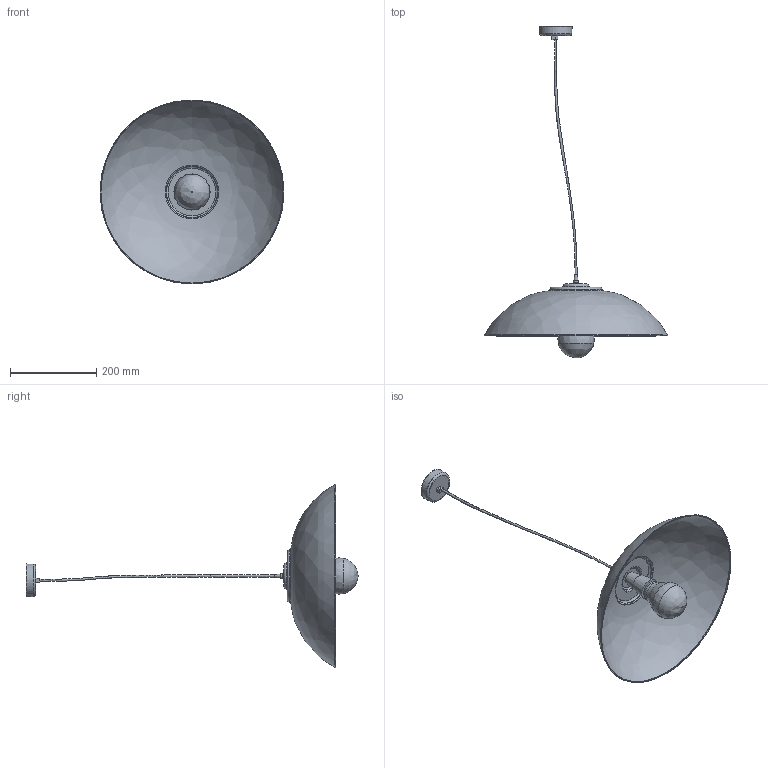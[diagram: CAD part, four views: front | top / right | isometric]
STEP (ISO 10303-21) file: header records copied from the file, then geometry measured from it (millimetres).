
FILE_DESCRIPTION(/* description */ (''),/* implementation_level */ '2;1');
FILE_NAME(/* name */ 'C:\Users\Patryk\Desktop\Modele MOSIĄDZ\B03\LAMPA B03.stp',/* time_stamp */ '2019-12-15T01:40:23+01:00',/* author */ ('Patryk'),/* organization */ (''),/* preprocessor_version */ 'ST-DEVELOPER v17',/* originating_system */ 'Autodesk Inventor 2019',/* authorisation */ '');
FILE_SCHEMA (('AUTOMOTIVE_DESIGN { 1 0 10303 214 3 1 1 }'));
Length unit declared in the file: millimetre
Products named in the file (16): LAMPA B03; B03 klosz; B03 uchwyt kabla; B03 kabel; Assembly6; holder; Part71; Part72; fila; Part1; B03 mocowanie zarowki II; B03 mocowanie zarowki; 1. zespol mocowania do sciany; FUNK mocowanie do sciany; FUNK mocowanie kabla; sruba
Assembly tree (15 placements, depth 3):
  LAMPA B03
    B03 klosz
    B03 uchwyt kabla
    B03 kabel
    Assembly6
      holder
      Part71
      Part72
      fila
      Part1
    B03 mocowanie zarowki II
    B03 mocowanie zarowki
    1. zespol mocowania do sciany
      FUNK mocowanie do sciany
      FUNK mocowanie kabla
      sruba
Bounding box: 425.38 x 767.79 x 425.38 mm (x, y, z)
Volume: 332020.5 mm3; surface area: 458654.3 mm2
Topology: 11 solids, 13 shells, 721 faces, 1730 edges, 1041 vertices
Faces by surface type: cone 359, torus 208, bspline 64, cylinder 45, plane 45
Full cylindrical faces by diameter (mm): 0.3 x2, 0.32 x1, 0.5 x2, 1 x2, 2.5 x1, 4 x2, 6 x2, 8 x1, 10 x1, 10.744 x1, 15.635 x1, 22.827 x1, 34.949 x4, 37.2 x5, 58 x1, 60 x1, 73 x1, 75 x1, 118 x1, 120 x1
Entity records: 31962 total; most frequent: CARTESIAN_POINT 13618, DIRECTION 4031, ORIENTED_EDGE 3455, AXIS2_PLACEMENT_3D 1745, EDGE_CURVE 1730, CIRCLE 1053, VERTEX_POINT 1041, EDGE_LOOP 744
